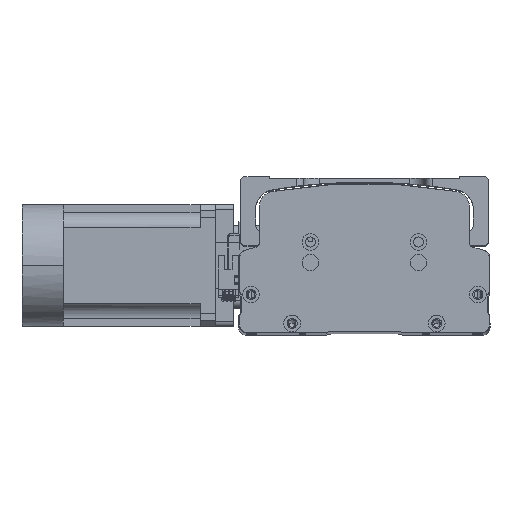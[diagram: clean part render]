
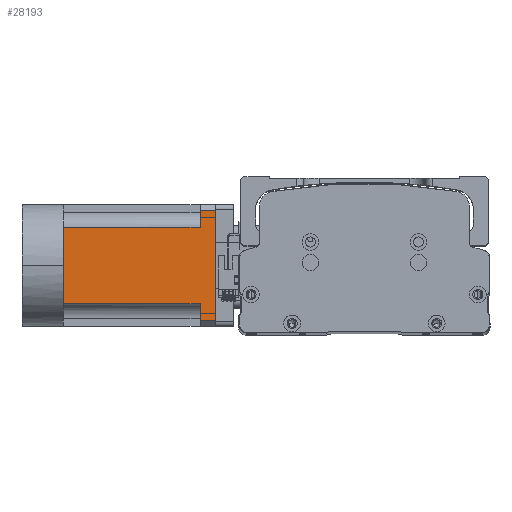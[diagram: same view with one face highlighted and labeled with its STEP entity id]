
A CAD part, top view. The second image highlights one B-rep face of the part: STEP entity #28193.
In plain terms, the highlighted planar face has unit normal (0, -0.003, 1) as drawn and (0, 0, -1) by its records, which use the part's own axes.
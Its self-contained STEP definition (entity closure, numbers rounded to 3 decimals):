
#203 = VECTOR ( 'NONE', #47981, 1000. ) ;
#388 = LINE ( 'NONE', #16780, #7905 ) ;
#662 = CARTESIAN_POINT ( 'NONE',  ( -25., -27., -40. ) ) ;
#3063 = VECTOR ( 'NONE', #24979, 1000. ) ;
#3624 = VERTEX_POINT ( 'NONE', #32431 ) ;
#3711 = CARTESIAN_POINT ( 'NONE',  ( -40., 0., -40. ) ) ;
#4018 = VECTOR ( 'NONE', #18752, 1000. ) ;
#4364 = ORIENTED_EDGE ( 'NONE', *, *, #15900, .T. ) ;
#5462 = DIRECTION ( 'NONE',  ( -1., 0., 0. ) ) ;
#5573 = VECTOR ( 'NONE', #5462, 1000. ) ;
#6350 = CARTESIAN_POINT ( 'NONE',  ( 25., -27., -40. ) ) ;
#6693 = EDGE_CURVE ( 'NONE', #10323, #37254, #19895, .T. ) ;
#7539 = EDGE_CURVE ( 'NONE', #10323, #27148, #43693, .T. ) ;
#7905 = VECTOR ( 'NONE', #20868, 1000. ) ;
#8723 = LINE ( 'NONE', #662, #9886 ) ;
#9886 = VECTOR ( 'NONE', #33938, 1000. ) ;
#10214 = CARTESIAN_POINT ( 'NONE',  ( -36., 100., -40. ) ) ;
#10323 = VERTEX_POINT ( 'NONE', #18077 ) ;
#10642 = CARTESIAN_POINT ( 'NONE',  ( 0., 0., -40. ) ) ;
#13012 = CARTESIAN_POINT ( 'NONE',  ( -40., -27., -40. ) ) ;
#13831 = LINE ( 'NONE', #37155, #4018 ) ;
#13980 = VECTOR ( 'NONE', #30650, 1000. ) ;
#14043 = LINE ( 'NONE', #6350, #3063 ) ;
#15474 = CARTESIAN_POINT ( 'NONE',  ( -36., 90., -40. ) ) ;
#15900 = EDGE_CURVE ( 'NONE', #34404, #17857, #41909, .T. ) ;
#16780 = CARTESIAN_POINT ( 'NONE',  ( -40., 0., -40. ) ) ;
#17857 = VERTEX_POINT ( 'NONE', #15474 ) ;
#18077 = CARTESIAN_POINT ( 'NONE',  ( 36., 100., -40. ) ) ;
#18229 = EDGE_CURVE ( 'NONE', #37254, #3624, #35225, .T. ) ;
#18752 = DIRECTION ( 'NONE',  ( 0., 1., 0. ) ) ;
#19626 = AXIS2_PLACEMENT_3D ( 'NONE', #13012, #20490, #46569 ) ;
#19895 = LINE ( 'NONE', #21882, #203 ) ;
#20490 = DIRECTION ( 'NONE',  ( 0., 0., -1. ) ) ;
#20557 = ORIENTED_EDGE ( 'NONE', *, *, #36223, .T. ) ;
#20868 = DIRECTION ( 'NONE',  ( -1., 0., 0. ) ) ;
#21882 = CARTESIAN_POINT ( 'NONE',  ( 36., -27., -40. ) ) ;
#22066 = VECTOR ( 'NONE', #46621, 1000. ) ;
#23311 = VERTEX_POINT ( 'NONE', #44208 ) ;
#23994 = CARTESIAN_POINT ( 'NONE',  ( -25., 90., -40. ) ) ;
#24893 = ORIENTED_EDGE ( 'NONE', *, *, #40351, .T. ) ;
#24979 = DIRECTION ( 'NONE',  ( 0., -1., 0. ) ) ;
#25559 = ORIENTED_EDGE ( 'NONE', *, *, #7539, .F. ) ;
#25770 = VECTOR ( 'NONE', #44481, 1000. ) ;
#26918 = CARTESIAN_POINT ( 'NONE',  ( -40., 100., -40. ) ) ;
#27148 = VERTEX_POINT ( 'NONE', #10214 ) ;
#27693 = CARTESIAN_POINT ( 'NONE',  ( -40., 90., -40. ) ) ;
#28032 = CARTESIAN_POINT ( 'NONE',  ( -40., 90., -40. ) ) ;
#28193 = ADVANCED_FACE ( 'NONE', ( #34746 ), #42804, .T. ) ;
#28346 = ORIENTED_EDGE ( 'NONE', *, *, #6693, .T. ) ;
#30650 = DIRECTION ( 'NONE',  ( -1., 0., 0. ) ) ;
#31964 = ORIENTED_EDGE ( 'NONE', *, *, #47001, .T. ) ;
#32353 = EDGE_CURVE ( 'NONE', #3624, #23311, #14043, .T. ) ;
#32431 = CARTESIAN_POINT ( 'NONE',  ( 25., 90., -40. ) ) ;
#32652 = EDGE_LOOP ( 'NONE', ( #25559, #28346, #34591, #48237, #20557, #24893, #31964, #4364, #45091 ) ) ;
#33938 = DIRECTION ( 'NONE',  ( 0., 1., 0. ) ) ;
#34404 = VERTEX_POINT ( 'NONE', #23994 ) ;
#34591 = ORIENTED_EDGE ( 'NONE', *, *, #18229, .T. ) ;
#34746 = FACE_OUTER_BOUND ( 'NONE', #32652, .T. ) ;
#35225 = LINE ( 'NONE', #27693, #5573 ) ;
#36223 = EDGE_CURVE ( 'NONE', #23311, #40282, #388, .T. ) ;
#37155 = CARTESIAN_POINT ( 'NONE',  ( -36., -27., -40. ) ) ;
#37254 = VERTEX_POINT ( 'NONE', #39657 ) ;
#38833 = VERTEX_POINT ( 'NONE', #45915 ) ;
#39657 = CARTESIAN_POINT ( 'NONE',  ( 36., 90., -40. ) ) ;
#40282 = VERTEX_POINT ( 'NONE', #10642 ) ;
#40351 = EDGE_CURVE ( 'NONE', #40282, #38833, #46785, .T. ) ;
#41909 = LINE ( 'NONE', #28032, #22066 ) ;
#42506 = EDGE_CURVE ( 'NONE', #17857, #27148, #13831, .T. ) ;
#42804 = PLANE ( 'NONE',  #19626 ) ;
#43693 = LINE ( 'NONE', #26918, #13980 ) ;
#44208 = CARTESIAN_POINT ( 'NONE',  ( 25., 0., -40. ) ) ;
#44481 = DIRECTION ( 'NONE',  ( -1., 0., 0. ) ) ;
#45091 = ORIENTED_EDGE ( 'NONE', *, *, #42506, .T. ) ;
#45915 = CARTESIAN_POINT ( 'NONE',  ( -25., 0., -40. ) ) ;
#46569 = DIRECTION ( 'NONE',  ( -1., 0., 0. ) ) ;
#46621 = DIRECTION ( 'NONE',  ( -1., 0., 0. ) ) ;
#46785 = LINE ( 'NONE', #3711, #25770 ) ;
#47001 = EDGE_CURVE ( 'NONE', #38833, #34404, #8723, .T. ) ;
#47981 = DIRECTION ( 'NONE',  ( 0., -1., 0. ) ) ;
#48237 = ORIENTED_EDGE ( 'NONE', *, *, #32353, .T. ) ;
